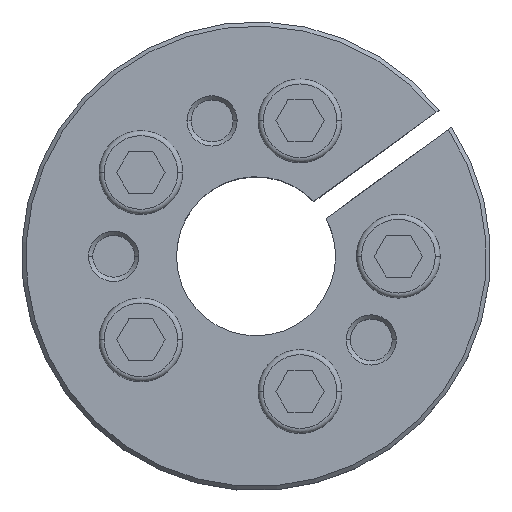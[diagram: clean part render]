
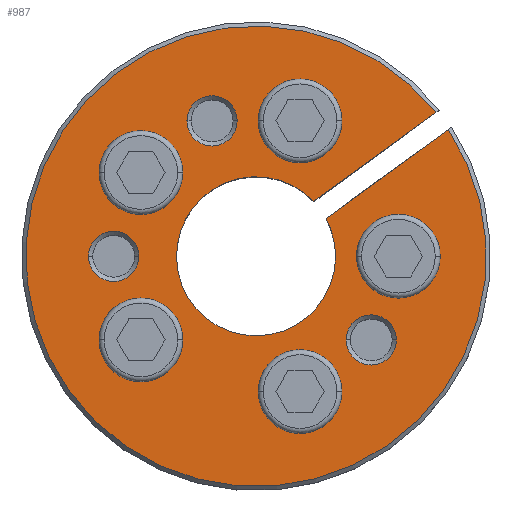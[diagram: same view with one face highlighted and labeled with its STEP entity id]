
A CAD part, top view. The second image highlights one B-rep face of the part: STEP entity #987.
In plain terms, the highlighted planar face has unit normal (0, 0, 1).
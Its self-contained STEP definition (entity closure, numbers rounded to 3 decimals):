
#64=CARTESIAN_POINT('',(17.,0.,6.));
#65=DIRECTION('',(0.,0.,1.));
#66=DIRECTION('',(1.,0.,0.));
#67=AXIS2_PLACEMENT_3D('',#64,#65,#66);
#72=CARTESIAN_POINT('',(17.,0.,6.));
#73=DIRECTION('',(0.,0.,1.));
#74=DIRECTION('',(-1.,0.,0.));
#75=AXIS2_PLACEMENT_3D('',#72,#73,#74);
#80=CARTESIAN_POINT('',(5.253,16.168,6.));
#81=DIRECTION('',(0.,0.,1.));
#82=DIRECTION('',(1.,0.,0.));
#83=AXIS2_PLACEMENT_3D('',#80,#81,#82);
#88=CARTESIAN_POINT('',(5.253,16.168,6.));
#89=DIRECTION('',(0.,0.,1.));
#90=DIRECTION('',(-1.,0.,0.));
#91=AXIS2_PLACEMENT_3D('',#88,#89,#90);
#96=CARTESIAN_POINT('',(-13.753,9.992,6.));
#97=DIRECTION('',(0.,0.,1.));
#98=DIRECTION('',(1.,0.,0.));
#99=AXIS2_PLACEMENT_3D('',#96,#97,#98);
#104=CARTESIAN_POINT('',(-13.753,9.992,6.));
#105=DIRECTION('',(0.,0.,1.));
#106=DIRECTION('',(-1.,0.,0.));
#107=AXIS2_PLACEMENT_3D('',#104,#105,#106);
#112=CARTESIAN_POINT('',(-13.753,-9.992,6.));
#113=DIRECTION('',(0.,0.,1.));
#114=DIRECTION('',(1.,0.,0.));
#115=AXIS2_PLACEMENT_3D('',#112,#113,#114);
#120=CARTESIAN_POINT('',(-13.753,-9.992,6.));
#121=DIRECTION('',(0.,0.,1.));
#122=DIRECTION('',(-1.,0.,0.));
#123=AXIS2_PLACEMENT_3D('',#120,#121,#122);
#128=CARTESIAN_POINT('',(5.253,-16.168,6.));
#129=DIRECTION('',(0.,0.,1.));
#130=DIRECTION('',(1.,0.,0.));
#131=AXIS2_PLACEMENT_3D('',#128,#129,#130);
#136=CARTESIAN_POINT('',(5.253,-16.168,6.));
#137=DIRECTION('',(0.,0.,1.));
#138=DIRECTION('',(-1.,0.,0.));
#139=AXIS2_PLACEMENT_3D('',#136,#137,#138);
#144=CARTESIAN_POINT('',(-5.253,16.168,6.));
#145=DIRECTION('',(0.,0.,-1.));
#146=DIRECTION('',(1.,0.,0.));
#147=AXIS2_PLACEMENT_3D('',#144,#145,#146);
#152=CARTESIAN_POINT('',(-5.253,16.168,6.));
#153=DIRECTION('',(0.,0.,-1.));
#154=DIRECTION('',(-1.,0.,0.));
#155=AXIS2_PLACEMENT_3D('',#152,#153,#154);
#160=CARTESIAN_POINT('',(-17.,0.,6.));
#161=DIRECTION('',(0.,0.,-1.));
#162=DIRECTION('',(1.,0.,0.));
#163=AXIS2_PLACEMENT_3D('',#160,#161,#162);
#168=CARTESIAN_POINT('',(-17.,0.,6.));
#169=DIRECTION('',(0.,0.,-1.));
#170=DIRECTION('',(-1.,0.,0.));
#171=AXIS2_PLACEMENT_3D('',#168,#169,#170);
#176=CARTESIAN_POINT('',(13.753,-9.992,6.));
#177=DIRECTION('',(0.,0.,-1.));
#178=DIRECTION('',(1.,0.,0.));
#179=AXIS2_PLACEMENT_3D('',#176,#177,#178);
#184=CARTESIAN_POINT('',(13.753,-9.992,6.));
#185=DIRECTION('',(0.,0.,-1.));
#186=DIRECTION('',(-1.,0.,0.));
#187=AXIS2_PLACEMENT_3D('',#184,#185,#186);
#192=DIRECTION('',(0.809,0.588,0.));
#193=VECTOR('',#192,18.054);
#194=CARTESIAN_POINT('',(8.354,4.524,6.));
#195=LINE('',#194,#193);
#199=DIRECTION('',(-0.809,-0.588,0.));
#200=VECTOR('',#199,18.054);
#201=CARTESIAN_POINT('',(21.49,17.159,6.));
#202=LINE('',#201,#200);
#624=CARTESIAN_POINT('',(0.,0.,6.));
#625=DIRECTION('',(0.,0.,-1.));
#626=DIRECTION('',(0.879,0.476,0.));
#627=AXIS2_PLACEMENT_3D('',#624,#625,#626);
#672=CARTESIAN_POINT('',(0.,0.,6.));
#673=DIRECTION('',(0.,0.,1.));
#674=DIRECTION('',(0.781,0.624,0.));
#675=AXIS2_PLACEMENT_3D('',#672,#673,#674);
#776=CARTESIAN_POINT('',(20.25,0.,6.));
#777=CARTESIAN_POINT('',(13.75,0.,6.));
#778=VERTEX_POINT('',#776);
#779=VERTEX_POINT('',#777);
#784=CARTESIAN_POINT('',(8.503,16.168,6.));
#785=CARTESIAN_POINT('',(2.003,16.168,6.));
#786=VERTEX_POINT('',#784);
#787=VERTEX_POINT('',#785);
#792=CARTESIAN_POINT('',(-10.503,9.992,6.));
#793=CARTESIAN_POINT('',(-17.003,9.992,6.));
#794=VERTEX_POINT('',#792);
#795=VERTEX_POINT('',#793);
#800=CARTESIAN_POINT('',(-10.503,-9.992,6.));
#801=CARTESIAN_POINT('',(-17.003,-9.992,6.));
#802=VERTEX_POINT('',#800);
#803=VERTEX_POINT('',#801);
#808=CARTESIAN_POINT('',(8.503,-16.168,6.));
#809=CARTESIAN_POINT('',(2.003,-16.168,6.));
#810=VERTEX_POINT('',#808);
#811=VERTEX_POINT('',#809);
#816=CARTESIAN_POINT('',(-2.253,16.168,6.));
#817=CARTESIAN_POINT('',(-8.253,16.168,6.));
#818=VERTEX_POINT('',#816);
#819=VERTEX_POINT('',#817);
#832=CARTESIAN_POINT('',(-14.,0.,6.));
#833=CARTESIAN_POINT('',(-20.,0.,6.));
#834=VERTEX_POINT('',#832);
#835=VERTEX_POINT('',#833);
#848=CARTESIAN_POINT('',(16.753,-9.992,6.));
#849=CARTESIAN_POINT('',(10.753,-9.992,6.));
#850=VERTEX_POINT('',#848);
#851=VERTEX_POINT('',#849);
#864=CARTESIAN_POINT('',(8.354,4.524,6.));
#865=CARTESIAN_POINT('',(22.96,15.136,6.));
#866=VERTEX_POINT('',#864);
#867=VERTEX_POINT('',#865);
#868=CARTESIAN_POINT('',(21.49,17.159,6.));
#869=CARTESIAN_POINT('',(6.884,6.547,6.));
#870=VERTEX_POINT('',#868);
#871=VERTEX_POINT('',#869);
#925=CARTESIAN_POINT('',(0.,0.,6.));
#926=DIRECTION('',(0.,0.,-1.));
#927=DIRECTION('',(0.,-1.,0.));
#928=AXIS2_PLACEMENT_3D('',#925,#926,#927);
#929=PLANE('',#928);
#931=ORIENTED_EDGE('',*,*,#930,.T.);
#933=ORIENTED_EDGE('',*,*,#932,.F.);
#935=ORIENTED_EDGE('',*,*,#934,.T.);
#937=ORIENTED_EDGE('',*,*,#936,.F.);
#938=EDGE_LOOP('',(#931,#933,#935,#937));
#939=FACE_OUTER_BOUND('',#938,.F.);
#941=ORIENTED_EDGE('',*,*,#940,.T.);
#943=ORIENTED_EDGE('',*,*,#942,.T.);
#944=EDGE_LOOP('',(#941,#943));
#945=FACE_BOUND('',#944,.F.);
#947=ORIENTED_EDGE('',*,*,#946,.T.);
#949=ORIENTED_EDGE('',*,*,#948,.T.);
#950=EDGE_LOOP('',(#947,#949));
#951=FACE_BOUND('',#950,.F.);
#953=ORIENTED_EDGE('',*,*,#952,.T.);
#955=ORIENTED_EDGE('',*,*,#954,.T.);
#956=EDGE_LOOP('',(#953,#955));
#957=FACE_BOUND('',#956,.F.);
#959=ORIENTED_EDGE('',*,*,#958,.T.);
#961=ORIENTED_EDGE('',*,*,#960,.T.);
#962=EDGE_LOOP('',(#959,#961));
#963=FACE_BOUND('',#962,.F.);
#965=ORIENTED_EDGE('',*,*,#964,.T.);
#967=ORIENTED_EDGE('',*,*,#966,.T.);
#968=EDGE_LOOP('',(#965,#967));
#969=FACE_BOUND('',#968,.F.);
#970=ORIENTED_EDGE('',*,*,#915,.F.);
#972=ORIENTED_EDGE('',*,*,#971,.F.);
#973=EDGE_LOOP('',(#970,#972));
#974=FACE_BOUND('',#973,.F.);
#976=ORIENTED_EDGE('',*,*,#975,.F.);
#978=ORIENTED_EDGE('',*,*,#977,.F.);
#979=EDGE_LOOP('',(#976,#978));
#980=FACE_BOUND('',#979,.F.);
#982=ORIENTED_EDGE('',*,*,#981,.F.);
#984=ORIENTED_EDGE('',*,*,#983,.F.);
#985=EDGE_LOOP('',(#982,#984));
#986=FACE_BOUND('',#985,.F.);
#987=ADVANCED_FACE('',(#939,#945,#951,#957,#963,#969,#974,#980,#986),#929,.F.);
#68=CIRCLE('',#67,3.25);
#76=CIRCLE('',#75,3.25);
#84=CIRCLE('',#83,3.25);
#92=CIRCLE('',#91,3.25);
#100=CIRCLE('',#99,3.25);
#108=CIRCLE('',#107,3.25);
#116=CIRCLE('',#115,3.25);
#124=CIRCLE('',#123,3.25);
#132=CIRCLE('',#131,3.25);
#140=CIRCLE('',#139,3.25);
#148=CIRCLE('',#147,3.);
#156=CIRCLE('',#155,3.);
#164=CIRCLE('',#163,3.);
#172=CIRCLE('',#171,3.);
#180=CIRCLE('',#179,3.);
#188=CIRCLE('',#187,3.);
#628=CIRCLE('',#627,9.5);
#676=CIRCLE('',#675,27.5);
#915=EDGE_CURVE('',#818,#819,#148,.T.);
#930=EDGE_CURVE('',#866,#867,#195,.T.);
#932=EDGE_CURVE('',#870,#867,#676,.T.);
#934=EDGE_CURVE('',#870,#871,#202,.T.);
#936=EDGE_CURVE('',#866,#871,#628,.T.);
#940=EDGE_CURVE('',#778,#779,#68,.T.);
#942=EDGE_CURVE('',#779,#778,#76,.T.);
#946=EDGE_CURVE('',#786,#787,#84,.T.);
#948=EDGE_CURVE('',#787,#786,#92,.T.);
#952=EDGE_CURVE('',#794,#795,#100,.T.);
#954=EDGE_CURVE('',#795,#794,#108,.T.);
#958=EDGE_CURVE('',#802,#803,#116,.T.);
#960=EDGE_CURVE('',#803,#802,#124,.T.);
#964=EDGE_CURVE('',#810,#811,#132,.T.);
#966=EDGE_CURVE('',#811,#810,#140,.T.);
#971=EDGE_CURVE('',#819,#818,#156,.T.);
#975=EDGE_CURVE('',#834,#835,#164,.T.);
#977=EDGE_CURVE('',#835,#834,#172,.T.);
#981=EDGE_CURVE('',#850,#851,#180,.T.);
#983=EDGE_CURVE('',#851,#850,#188,.T.);
